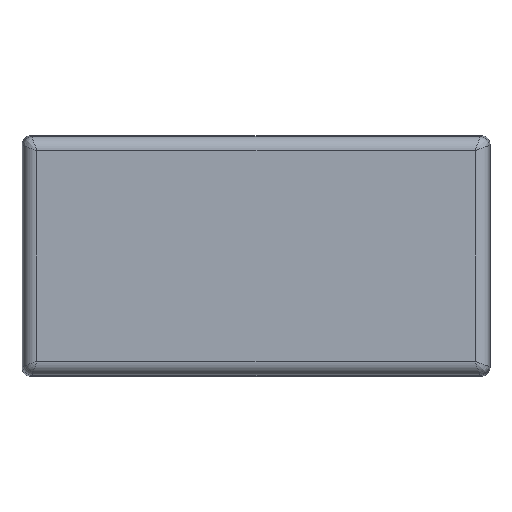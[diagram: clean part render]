
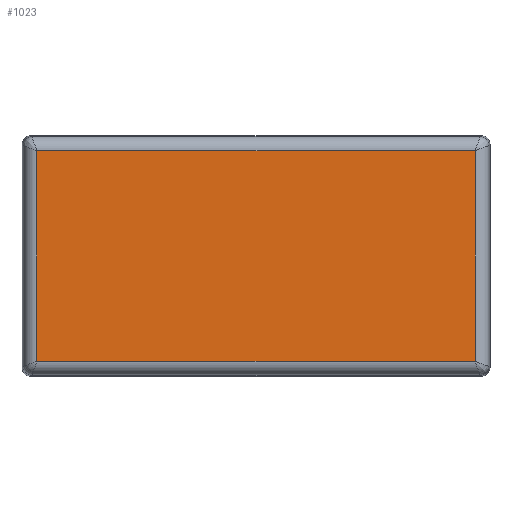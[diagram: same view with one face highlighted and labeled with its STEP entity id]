
A CAD part, front view. The second image highlights one B-rep face of the part: STEP entity #1023.
In plain terms, the highlighted planar face has unit normal (0, -1, 0).
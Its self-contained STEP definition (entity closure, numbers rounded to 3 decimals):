
#31 = CARTESIAN_POINT ( 'NONE',  ( -50.09, 0., 24.09 ) ) ;
#94 = CARTESIAN_POINT ( 'NONE',  ( 50.09, 0., 24.09 ) ) ;
#100 = ORIENTED_EDGE ( 'NONE', *, *, #1138, .T. ) ;
#139 = VECTOR ( 'NONE', #437, 1000. ) ;
#181 = CARTESIAN_POINT ( 'NONE',  ( 50.09, 0., 0. ) ) ;
#182 = ORIENTED_EDGE ( 'NONE', *, *, #1106, .T. ) ;
#249 = PLANE ( 'NONE',  #1788 ) ;
#290 = CARTESIAN_POINT ( 'NONE',  ( 0., 0., 24.09 ) ) ;
#320 = DIRECTION ( 'NONE',  ( 0., 0., 1. ) ) ;
#368 = VERTEX_POINT ( 'NONE', #1712 ) ;
#382 = DIRECTION ( 'NONE',  ( 0., 0., 1. ) ) ;
#430 = DIRECTION ( 'NONE',  ( 0., 0., -1. ) ) ;
#437 = DIRECTION ( 'NONE',  ( 1., 0., 0. ) ) ;
#447 = FACE_OUTER_BOUND ( 'NONE', #1343, .T. ) ;
#565 = VECTOR ( 'NONE', #430, 1000. ) ;
#581 = CARTESIAN_POINT ( 'NONE',  ( -50.09, 0., 0. ) ) ;
#595 = VERTEX_POINT ( 'NONE', #31 ) ;
#641 = VECTOR ( 'NONE', #1197, 1000. ) ;
#872 = VECTOR ( 'NONE', #320, 1000. ) ;
#981 = CARTESIAN_POINT ( 'NONE',  ( 0., 0., 0. ) ) ;
#1020 = LINE ( 'NONE', #581, #565 ) ;
#1023 = ADVANCED_FACE ( 'NONE', ( #447 ), #249, .F. ) ;
#1047 = ORIENTED_EDGE ( 'NONE', *, *, #1100, .T. ) ;
#1100 = EDGE_CURVE ( 'NONE', #1546, #595, #1761, .T. ) ;
#1106 = EDGE_CURVE ( 'NONE', #595, #368, #1020, .T. ) ;
#1138 = EDGE_CURVE ( 'NONE', #368, #1807, #1330, .T. ) ;
#1161 = EDGE_CURVE ( 'NONE', #1807, #1546, #1705, .T. ) ;
#1197 = DIRECTION ( 'NONE',  ( -1., 0., 0. ) ) ;
#1201 = CARTESIAN_POINT ( 'NONE',  ( 0., 0., -24.09 ) ) ;
#1330 = LINE ( 'NONE', #1201, #139 ) ;
#1343 = EDGE_LOOP ( 'NONE', ( #1047, #182, #100, #1455 ) ) ;
#1455 = ORIENTED_EDGE ( 'NONE', *, *, #1161, .T. ) ;
#1546 = VERTEX_POINT ( 'NONE', #94 ) ;
#1705 = LINE ( 'NONE', #181, #872 ) ;
#1712 = CARTESIAN_POINT ( 'NONE',  ( -50.09, 0., -24.09 ) ) ;
#1761 = LINE ( 'NONE', #290, #641 ) ;
#1785 = CARTESIAN_POINT ( 'NONE',  ( 50.09, 0., -24.09 ) ) ;
#1788 = AXIS2_PLACEMENT_3D ( 'NONE', #981, #1874, #382 ) ;
#1807 = VERTEX_POINT ( 'NONE', #1785 ) ;
#1874 = DIRECTION ( 'NONE',  ( 0., 1., 0. ) ) ;
